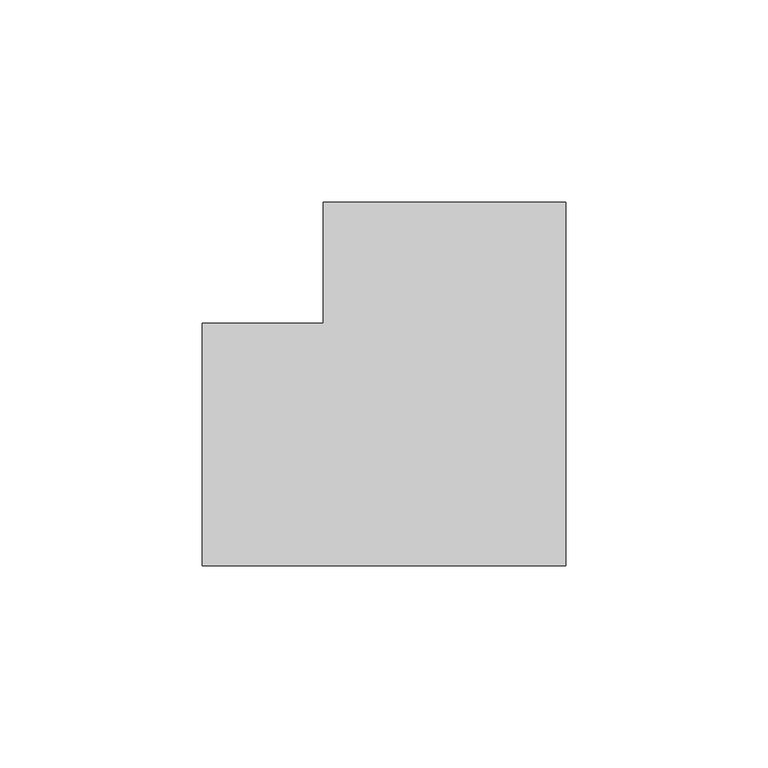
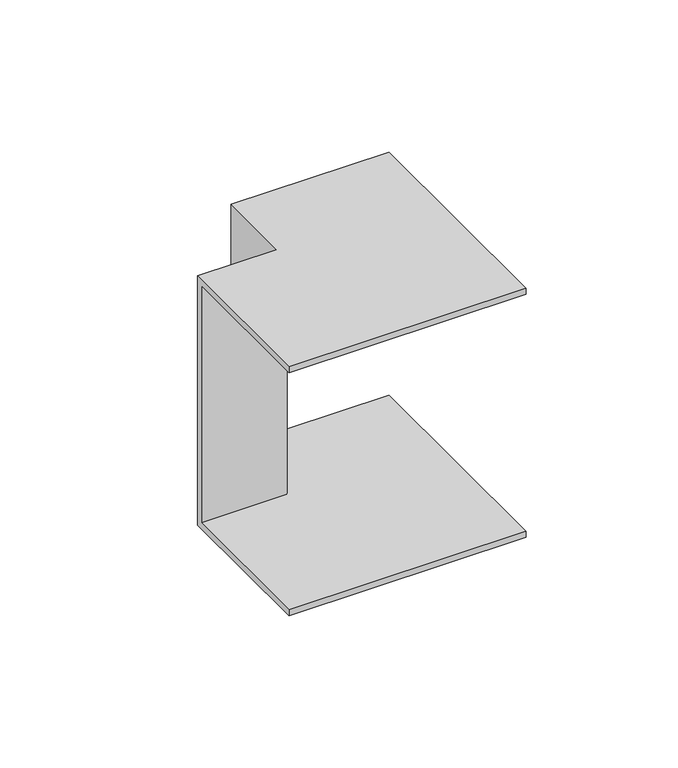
"""IFC4 building model written with IfcOpenShell, lengths in millimetres: cable carrier fitting geometry, КНС_УголВнешний_ILC_DKC : Угол внешний_DKC."""

from ifc_helpers import new_model, si_unit, origin, place, context, project, spatial, faceted_brep, source, transform, mapped, element, save


def cable_carrier_fitting_2fb35160(model_context):
    return source(origin(), model_context, "Body", "Brep", [
        faceted_brep([(-60.0, 30.0, 50.0), (-60.0, 30.0, -50.0), (-60.0, -30.0, -50.0), (-60.0, -30.0, -47.5), (-60.0, 27.5, -47.5), (-60.0, 27.5, 47.5), (-60.0, -30.0, 47.5), (-60.0, -30.0, 50.0), (-30.0, 60.0, 50.0), (30.0, 60.0, 50.0), (30.0, 60.0, 47.5), (-27.5, 60.0, 47.5), (-27.5, 60.0, -47.5), (30.0, 60.0, -47.5), (30.0, 60.0, -50.0), (-30.0, 60.0, -50.0), (-30.0, 30.0, 50.0), (-30.0, 30.0, -50.0), (30.0, -30.0, -50.0), (30.0, -30.0, -47.5), (-27.5, 27.5, -47.5), (-27.5, 27.5, 47.5), (30.0, -30.0, 47.5), (30.0, -30.0, 50.0)], [[[0, 1, 2, 3, 4, 5, 6, 7]], [[8, 9, 10, 11, 12, 13, 14, 15]], [[1, 0, 16, 17]], [[2, 1, 17, 15, 14, 18]], [[3, 2, 18, 19]], [[4, 3, 19, 13, 12, 20]], [[5, 4, 20, 21]], [[6, 5, 21, 11, 10, 22]], [[7, 6, 22, 23]], [[0, 7, 23, 9, 8, 16]], [[17, 16, 8, 15]], [[19, 18, 14, 13]], [[21, 20, 12, 11]], [[23, 22, 10, 9]]]),
    ])


if __name__ == "__main__":
    model = new_model("IFC4")
    model_context = context("Model", 3, world=origin())
    ifc_project = project(units=[si_unit("LENGTHUNIT", "METRE", prefix="MILLI")], contexts=[model_context])
    site = spatial("IfcSite", under=ifc_project)
    building = spatial("IfcBuilding", under=site)
    placement = place(None, origin())
    cable_carrier_fitting_shape = cable_carrier_fitting_2fb35160(model_context)
    element("IfcCableCarrierFitting", 1, ObjectType="КНС_УголВнешний_ILC_DKC : Угол внешний_DKC", at=placement, inside=building, context=model_context, shape_type="MappedRepresentation", body=[
        mapped(cable_carrier_fitting_shape, transform((0.0, 0.0, 0.0), x_axis=(1.0, 0.0, 0.0), y_axis=(0.0, 1.0, 0.0), z_axis=(0.0, 0.0, 1.0))),
    ])
    save(model, "model.ifc")
